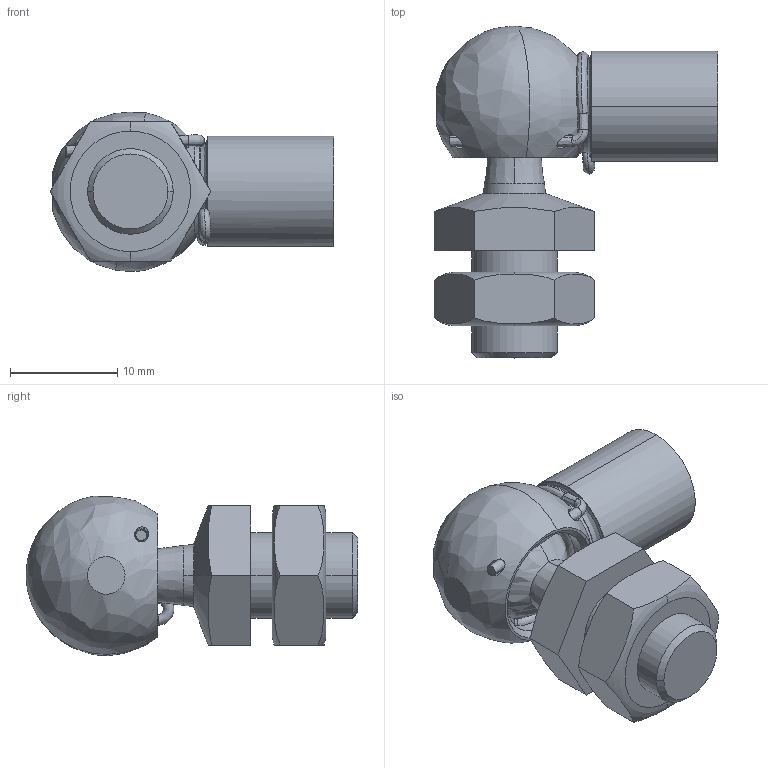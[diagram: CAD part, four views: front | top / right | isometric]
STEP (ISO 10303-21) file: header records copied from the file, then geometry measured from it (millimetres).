
FILE_DESCRIPTION (( 'STEP AP214' ), '1' );
FILE_NAME ('13.CS10M8L19S.STEP', '2017-11-22T14:47:14', ( '' ), ( '' ), 'SwSTEP 2.0', 'SolidWorks 2016', '' );
FILE_SCHEMA (( 'AUTOMOTIVE_DESIGN' ));
Length unit declared in the file: millimetre
Products named in the file (1): 13.CS10M8L19S
Bounding box: 26.51 x 31 x 14.87 mm (x, y, z)
Volume: 3780.9 mm3; surface area: 3003.2 mm2
Topology: 1 solids, 1 shells, 106 faces, 321 edges, 204 vertices
Faces by surface type: bspline 35, plane 28, cylinder 20, cone 19, torus 4
Entity records: 10534 total; most frequent: CARTESIAN_POINT 7993, ORIENTED_EDGE 608, DIRECTION 429, EDGE_CURVE 304, VERTEX_POINT 204, AXIS2_PLACEMENT_3D 182, EDGE_LOOP 120, B_SPLINE_CURVE_WITH_KNOTS 115
